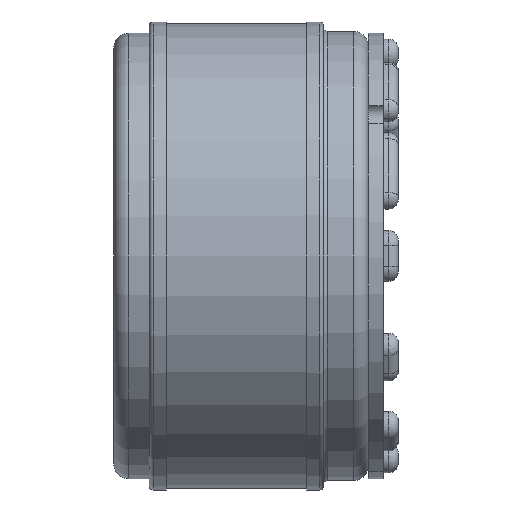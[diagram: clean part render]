
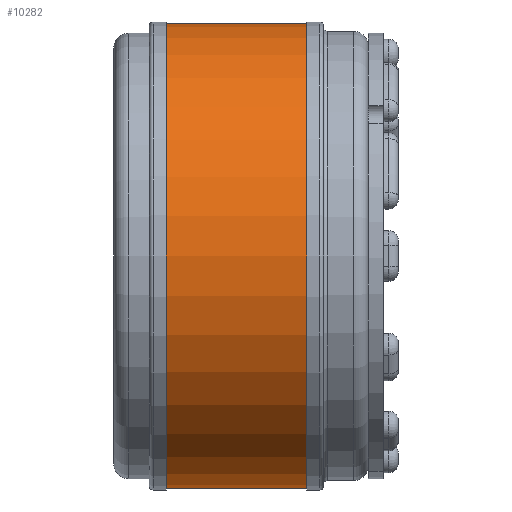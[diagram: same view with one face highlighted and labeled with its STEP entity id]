
A CAD part, front view. The second image highlights one B-rep face of the part: STEP entity #10282.
In plain terms, the highlighted cylindrical face has radius 12.4 mm (diameter 24.8 mm), a partial arc.
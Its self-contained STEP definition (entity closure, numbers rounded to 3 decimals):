
#1697 = DIRECTION ( 'NONE',  ( -1., 0., 0. ) ) ;
#1828 = VERTEX_POINT ( 'NONE', #15669 ) ;
#2996 = EDGE_CURVE ( 'NONE', #7814, #11202, #20741, .T. ) ;
#3841 = DIRECTION ( 'NONE',  ( -1., 0., 0. ) ) ;
#4493 = CYLINDRICAL_SURFACE ( 'NONE', #7061, 12.4 ) ;
#5046 = DIRECTION ( 'NONE',  ( 0., 0., 1. ) ) ;
#6019 = DIRECTION ( 'NONE',  ( -1., 0., 0. ) ) ;
#6575 = CARTESIAN_POINT ( 'NONE',  ( -12.651, 0., 0. ) ) ;
#7061 = AXIS2_PLACEMENT_3D ( 'NONE', #6575, #8655, #5046 ) ;
#7275 = DIRECTION ( 'NONE',  ( -1., 0., 0. ) ) ;
#7814 = VERTEX_POINT ( 'NONE', #9292 ) ;
#7940 = FACE_OUTER_BOUND ( 'NONE', #9107, .T. ) ;
#8015 = CIRCLE ( 'NONE', #16828, 12.4 ) ;
#8177 = AXIS2_PLACEMENT_3D ( 'NONE', #9028, #1697, #23796 ) ;
#8655 = DIRECTION ( 'NONE',  ( -1., 0., 0. ) ) ;
#9028 = CARTESIAN_POINT ( 'NONE',  ( 10.3, 0., 0. ) ) ;
#9107 = EDGE_LOOP ( 'NONE', ( #10290, #10532, #23185, #14395 ) ) ;
#9292 = CARTESIAN_POINT ( 'NONE',  ( 10.3, 0., 12.4 ) ) ;
#10282 = ADVANCED_FACE ( 'NONE', ( #7940 ), #4493, .T. ) ;
#10290 = ORIENTED_EDGE ( 'NONE', *, *, #22266, .F. ) ;
#10532 = ORIENTED_EDGE ( 'NONE', *, *, #22909, .T. ) ;
#11202 = VERTEX_POINT ( 'NONE', #23052 ) ;
#11477 = CARTESIAN_POINT ( 'NONE',  ( -12.651, 0., 12.4 ) ) ;
#11515 = CIRCLE ( 'NONE', #8177, 12.4 ) ;
#13627 = VECTOR ( 'NONE', #7275, 1000. ) ;
#14395 = ORIENTED_EDGE ( 'NONE', *, *, #23469, .F. ) ;
#15669 = CARTESIAN_POINT ( 'NONE',  ( 2.8, 0., -12.4 ) ) ;
#16771 = DIRECTION ( 'NONE',  ( 0., 0., 1. ) ) ;
#16828 = AXIS2_PLACEMENT_3D ( 'NONE', #22355, #3841, #16771 ) ;
#19886 = VECTOR ( 'NONE', #6019, 1000. ) ;
#20741 = LINE ( 'NONE', #11477, #19886 ) ;
#20967 = CARTESIAN_POINT ( 'NONE',  ( 10.3, 0., -12.4 ) ) ;
#22266 = EDGE_CURVE ( 'NONE', #22531, #1828, #22649, .T. ) ;
#22355 = CARTESIAN_POINT ( 'NONE',  ( 2.8, 0., 0. ) ) ;
#22531 = VERTEX_POINT ( 'NONE', #20967 ) ;
#22649 = LINE ( 'NONE', #23896, #13627 ) ;
#22909 = EDGE_CURVE ( 'NONE', #22531, #7814, #11515, .T. ) ;
#23052 = CARTESIAN_POINT ( 'NONE',  ( 2.8, 0., 12.4 ) ) ;
#23185 = ORIENTED_EDGE ( 'NONE', *, *, #2996, .T. ) ;
#23469 = EDGE_CURVE ( 'NONE', #1828, #11202, #8015, .T. ) ;
#23796 = DIRECTION ( 'NONE',  ( 0., 0., 1. ) ) ;
#23896 = CARTESIAN_POINT ( 'NONE',  ( -12.651, 0., -12.4 ) ) ;
